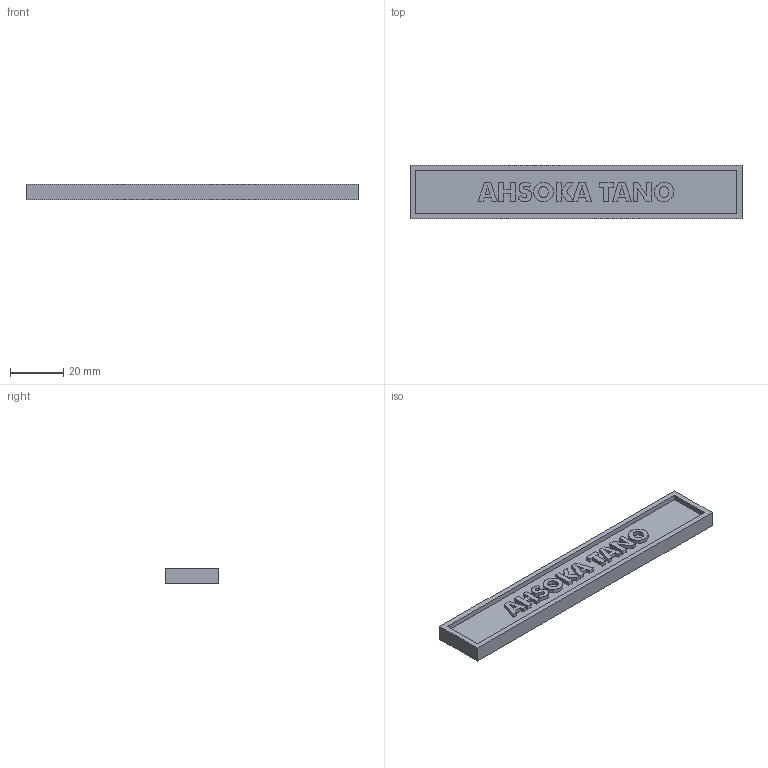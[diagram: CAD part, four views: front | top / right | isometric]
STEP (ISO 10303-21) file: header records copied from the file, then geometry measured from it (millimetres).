
FILE_DESCRIPTION(('HOOPS Exchange Step'),'2;1');
FILE_NAME('/Users/sparky/Library/Containers/com.shapr3d.shapr/Data/tmp/export/temp_export','2026-07-10T21:19:08+17:00',('sparky'),('Shapr3D Limited'),'HOOPS Exchange 2026.3','Shapr3D','Authorized');
FILE_SCHEMA( ('AP242_MANAGED_MODEL_BASED_3D_ENGINEERING_MIM_LF {1 0 10303 442 1 1 4}') );
Length unit declared in the file: millimetre
Products named in the file (1): root
Bounding box: 125 x 20 x 6 mm (x, y, z)
Volume: 11534.4 mm3; surface area: 8348 mm2
Topology: 11 solids, 11 shells, 136 faces, 339 edges, 226 vertices
Faces by surface type: plane 110, bspline 26
Entity records: 4597 total; most frequent: CARTESIAN_POINT 1473, ORIENTED_EDGE 678, DIRECTION 511, EDGE_CURVE 339, VECTOR 287, LINE 287, VERTEX_POINT 226, EDGE_LOOP 147
